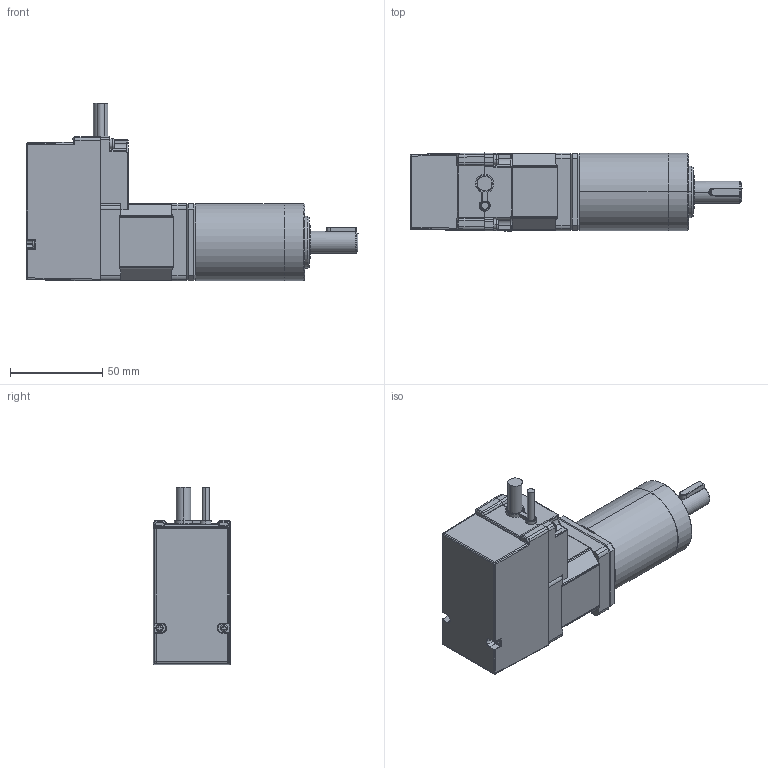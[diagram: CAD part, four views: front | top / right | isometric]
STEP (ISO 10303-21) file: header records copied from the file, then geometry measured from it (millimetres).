
FILE_DESCRIPTION(('STEP AP214'),'1');
FILE_NAME('D:\仕事\テーマ別\3DCAD\RSA0411-G5\tmp0.STEP',' ',(' '),(' '),'XStep 1.0',' ',' ');
FILE_SCHEMA(('automotive_design'));
Length unit declared in the file: millimetre
Bounding box: 180 x 42.23 x 96.5 mm (x, y, z)
Volume: 323142.6 mm3; surface area: 62590.2 mm2
Topology: 21 solids, 21 shells, 579 faces, 1457 edges, 918 vertices
Faces by surface type: cylinder 252, plane 235, torus 41, bspline 25, cone 22, sphere 4
Entity records: 25707 total; most frequent: CARTESIAN_POINT 6451, DIRECTION 3132, ORIENTED_EDGE 2906, EDGE_CURVE 1453, AXIS2_PLACEMENT_3D 1182, VERTEX_POINT 918, LINE 768, VECTOR 768
